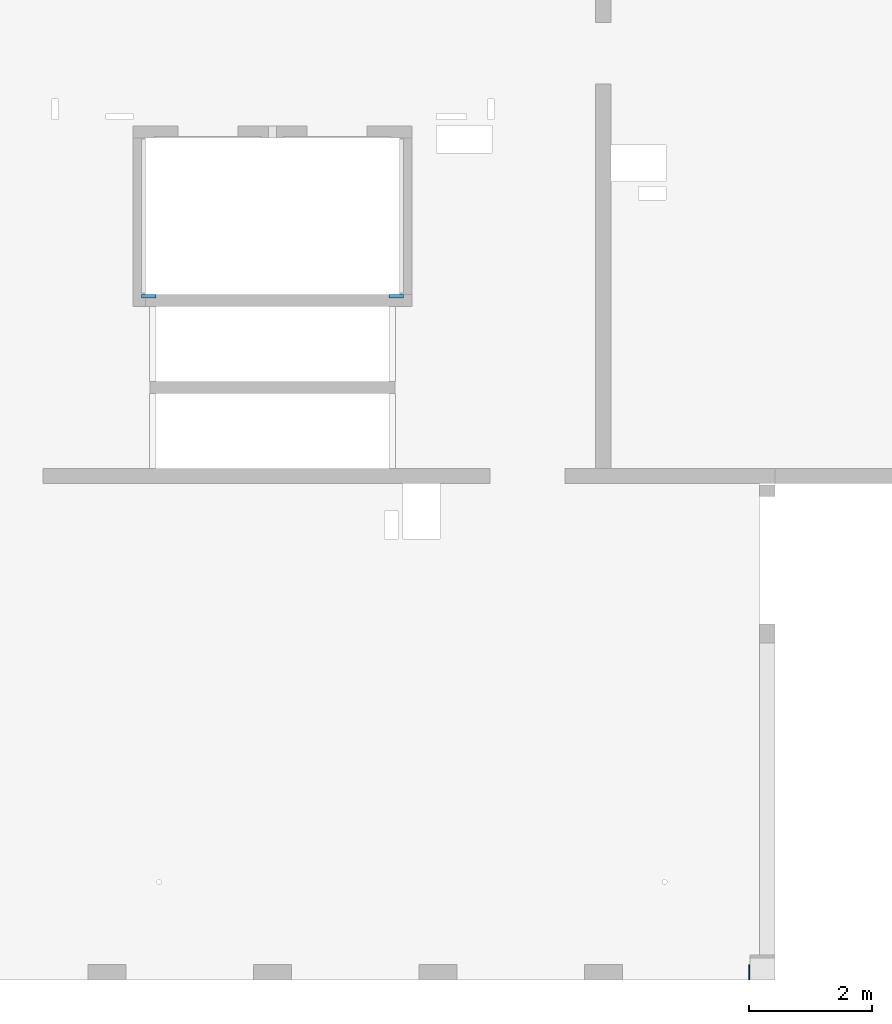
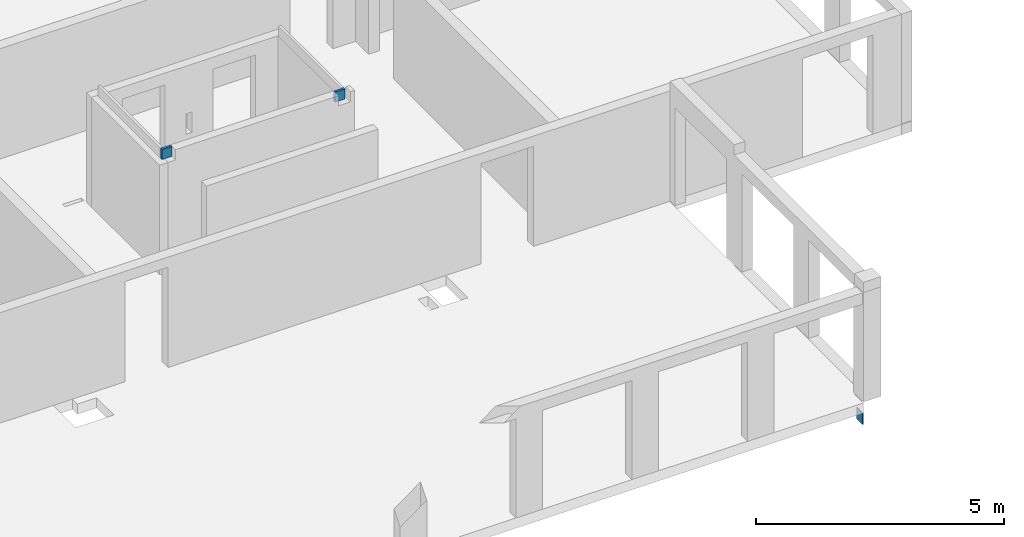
# One storey, part 5 of 8: 3 walls, 1 opening.
"""IFC2X3 building model written with IfcOpenShell, lengths in millimetres."""

from ifc_helpers import new_model, entity, si_unit, converted_unit, derived_unit, direction, frame, frame_2d, origin, place, context, subcontext, project, spatial, rectangle, extrude, material, layer, layer_set, layer_usage, type_object, element, save


model = new_model("IFC2X3")

# Units and contexts
model_context = context("Model", 3, precision=0.01, world=origin(), true_north=direction((6.12303176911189e-17, 1.0)))
body_context = subcontext(model_context, "Body", "Model", "MODEL_VIEW")
ifc_project = project(units=[si_unit("LENGTHUNIT", "METRE", prefix="MILLI"), si_unit("AREAUNIT", "SQUARE_METRE"), si_unit("VOLUMEUNIT", "CUBIC_METRE"), converted_unit("PLANEANGLEUNIT", "DEGREE", entity("IfcRatioMeasure", 0.0174532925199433), si_unit("PLANEANGLEUNIT", "RADIAN"), dimensions=[0, 0, 0, 0, 0, 0, 0]), si_unit("MASSUNIT", "GRAM", prefix="KILO"), derived_unit("MASSDENSITYUNIT", [(si_unit("MASSUNIT", "GRAM", prefix="KILO"), 1), (si_unit("LENGTHUNIT", "METRE"), -3)]), si_unit("TIMEUNIT", "SECOND"), si_unit("FREQUENCYUNIT", "HERTZ"), si_unit("THERMODYNAMICTEMPERATUREUNIT", "DEGREE_CELSIUS"), derived_unit("THERMALTRANSMITTANCEUNIT", [(si_unit("MASSUNIT", "GRAM", prefix="KILO"), 1), (si_unit("THERMODYNAMICTEMPERATUREUNIT", "KELVIN"), -1), (si_unit("TIMEUNIT", "SECOND"), -3)]), derived_unit("VOLUMETRICFLOWRATEUNIT", [(si_unit("LENGTHUNIT", "METRE"), 3), (si_unit("TIMEUNIT", "SECOND"), -1)]), si_unit("ELECTRICCURRENTUNIT", "AMPERE"), si_unit("ELECTRICVOLTAGEUNIT", "VOLT"), si_unit("POWERUNIT", "WATT"), si_unit("FORCEUNIT", "NEWTON", prefix="KILO"), si_unit("ILLUMINANCEUNIT", "LUX"), si_unit("LUMINOUSFLUXUNIT", "LUMEN"), si_unit("LUMINOUSINTENSITYUNIT", "CANDELA"), derived_unit("USERDEFINED", [(si_unit("MASSUNIT", "GRAM", prefix="KILO"), -1), (si_unit("LENGTHUNIT", "METRE"), -2), (si_unit("TIMEUNIT", "SECOND"), 3), (si_unit("LUMINOUSFLUXUNIT", "LUMEN"), 1)]), derived_unit("LINEARVELOCITYUNIT", [(si_unit("LENGTHUNIT", "METRE"), 1), (si_unit("TIMEUNIT", "SECOND"), -1)]), si_unit("PRESSUREUNIT", "PASCAL"), derived_unit("USERDEFINED", [(si_unit("LENGTHUNIT", "METRE"), -2), (si_unit("MASSUNIT", "GRAM", prefix="KILO"), 1), (si_unit("TIMEUNIT", "SECOND"), -2)])], contexts=[model_context])

# Site, building, storey
site_placement = place(None, origin())
site = spatial("IfcSite", under=ifc_project, at=site_placement, Name="Default", CompositionType="ELEMENT")
building_placement = place(site_placement, origin())
building = spatial("IfcBuilding", under=site, at=building_placement, Name="niet gebruiken", CompositionType="ELEMENT")
storey_placement = place(building_placement, frame((0.0, 0.0, 36360.0)))
storey = spatial("IfcBuildingStorey", under=building, at=storey_placement, Name="12 twaalfde verdieping", CompositionType="ELEMENT", Elevation=36360.0)

# Wall, opening
ifc_material_1 = material(Name="NLRS_f2_beton ihwg")
ifc_layer_1 = layer(ifc_material_1, 250.0)
ifc_layer_set_1 = layer_set([ifc_layer_1], Name="Basic Wall:NLRS_21.21_WA_beton ihwg d=250_gen")
ifc_layer_usage_1 = layer_usage(ifc_layer_set_1, "AXIS2", "NEGATIVE", 125.0)
wall_type_1 = type_object("IfcWallType", Name="Basic Wall:NLRS_21.21_WA_beton ihwg d=250_gen", PredefinedType="STANDARD", material=ifc_layer_set_1)
wall_1_placement = place(storey_placement, frame((50970.0, 28881.0, -620.0)))
wall_1 = element("IfcWallStandardCase", 1, at=wall_1_placement, inside=storey, type_object=wall_type_1, material=ifc_layer_usage_1, Name="Basic Wall:NLRS_21.21_WA_beton ihwg d=250_gen", ObjectType="Basic Wall:NLRS_21.21_WA_beton ihwg d=250_gen", context=body_context, shape_type="SweptSolid", body=[
    extrude(rectangle(XDim=19.999999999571, YDim=250.000000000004, at=frame_2d((9.99999999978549, 1.63424829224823e-13), x_axis=(-1.0, 0.0))), origin(), (0.0, 0.0, 1.0), 280.000000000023),
])
opening_placement = place(wall_1_placement, origin())
element("IfcOpeningElement", 2, at=opening_placement, cuts=wall_1, Name="Basic Wall:NLRS_21.21_WA_beton ihwg d=250_gen", ObjectType="Opening", context=body_context, shape_type="SweptSolid", body=[
    extrude(rectangle(XDim=2440.0, YDim=2080.0, at=frame_2d((0.0, -2.1600499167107e-12), x_axis=(0.0, 1.0))), frame((-1020.0, -1399.0, -1220.0), z_axis=(0.0, 1.0, 0.0), x_axis=(-1.0, 0.0, 0.0)), (0.0, 0.0, 1.0), 3048.0),
])

# Walls
ifc_material_2 = material(Name="NLRS_f2_beton prefab")
ifc_layer_2 = layer(ifc_material_2, 60.0)
ifc_layer_set_2 = layer_set([ifc_layer_2], Name="Basic Wall:NLRS_22.21_WA_beton prefab d=60_gen")
ifc_layer_usage_2 = layer_usage(ifc_layer_set_2, "AXIS2", "NEGATIVE", 30.0)
wall_type_2 = type_object("IfcWallType", Name="Basic Wall:NLRS_22.21_WA_beton prefab d=60_gen", PredefinedType="STANDARD", material=ifc_layer_set_2)
wall_2_placement = place(storey_placement, frame((41065.0, 39916.0, 2630.0)))
element("IfcWallStandardCase", 3, at=wall_2_placement, inside=storey, type_object=wall_type_2, material=ifc_layer_usage_2, Name="Basic Wall:NLRS_22.21_WA_beton prefab d=60_gen", ObjectType="Basic Wall:NLRS_22.21_WA_beton prefab d=60_gen", context=body_context, shape_type="SweptSolid", body=[
    extrude(rectangle(XDim=234.999967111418, YDim=60.0000000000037, at=frame_2d((117.499983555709, -4.12292422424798e-12), x_axis=(-1.0, 0.0))), origin(), (0.0, 0.0, 1.0), 250.000000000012),
])
ifc_layer_usage_3 = layer_usage(ifc_layer_set_2, "AXIS2", "POSITIVE", -30.0)
wall_3_placement = place(storey_placement, frame((45335.0, 39916.0, 2630.0), z_axis=(0.0, 0.0, 1.0), x_axis=(-1.0, 0.0, 0.0)))
element("IfcWallStandardCase", 4, at=wall_3_placement, inside=storey, type_object=wall_type_2, material=ifc_layer_usage_3, Name="Basic Wall:NLRS_22.21_WA_beton prefab d=60_gen", ObjectType="Basic Wall:NLRS_22.21_WA_beton prefab d=60_gen", context=body_context, shape_type="SweptSolid", body=[
    extrude(rectangle(XDim=234.999967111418, YDim=60.0000000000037, at=frame_2d((117.499983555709, 4.12114786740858e-12), x_axis=(-1.0, 0.0))), origin(), (0.0, 0.0, 1.0), 250.000000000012),
])

save(model, "model.ifc")
